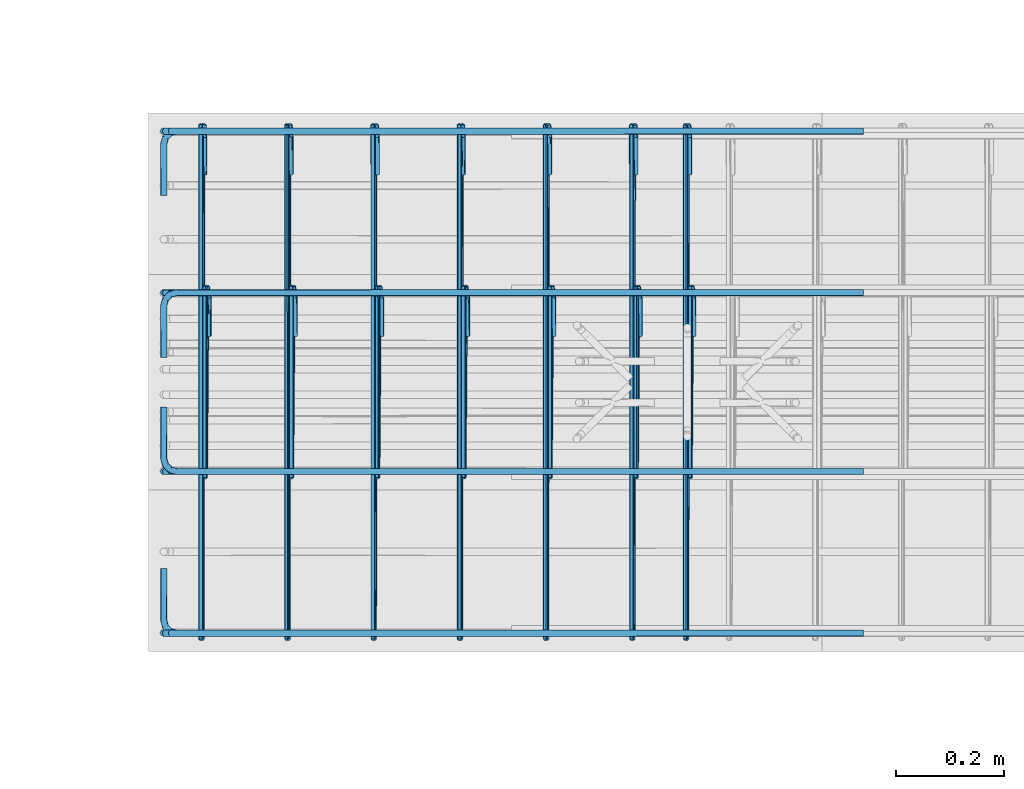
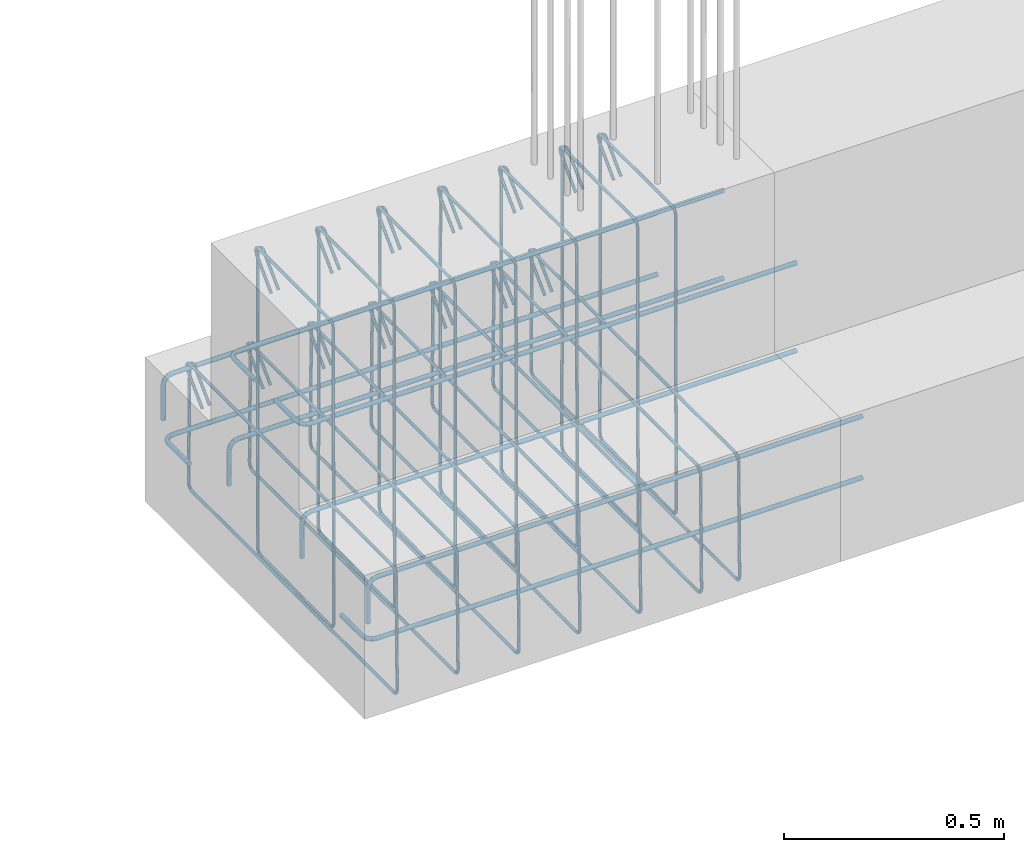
# One storey, part 19 of 23: 2 reinforcing bars.
"""IFC2X3 building model written with IfcOpenShell, lengths in metres."""

from ifc_helpers import new_model, entity, si_unit, direction, frame, origin, place, context, subcontext, project, spatial, shape, source, transform, mapped, element, save


model = new_model("IFC2X3")

# Units and contexts
model_context = context("Model", 3, precision=0.0, world=origin(), true_north=direction((0.0, 1.0)))
plan_context = context("Plan", 3, precision=0.0, world=origin(), true_north=direction((0.0, 1.0)))
body_context = subcontext(model_context, "Body", "Model", "MODEL_VIEW", scale=1.0)
ifc_project = project(units=[si_unit("LENGTHUNIT", "METRE"), si_unit("AREAUNIT", "SQUARE_METRE"), si_unit("VOLUMEUNIT", "CUBIC_METRE"), si_unit("PLANEANGLEUNIT", "RADIAN"), si_unit("THERMODYNAMICTEMPERATUREUNIT", "DEGREE_CELSIUS"), si_unit("FORCEUNIT", "NEWTON"), si_unit("MASSUNIT", "GRAM", prefix="KILO")], contexts=[model_context, plan_context])

# Site, building, storey
placement = place(None, origin())
site = spatial("IfcSite", under=ifc_project, at=placement, Name="Default Site", CompositionType="ELEMENT")
building = spatial("IfcBuilding", under=site, at=placement, Name="Default Building", CompositionType="ELEMENT")
storey_placement = place(placement, frame((0.0, 0.0, 0.0), z_axis=(1.0, 0.0, 0.0), x_axis=(0.0, 0.0, 1.0)))
storey = spatial("IfcBuildingStorey", under=building, at=storey_placement, Name="Piano 0", CompositionType="ELEMENT", Elevation=0.0)

# Reinforcing bars
shared_shape_1 = source(origin(), body_context, None, "AdvancedSweptSolid", [
    entity("IfcSweptDiskSolid", entity("IfcCompositeCurve", [entity("IfcCompositeCurveSegment", "CONTINUOUS", True, entity("IfcPolyline", [entity("IfcCartesianPoint", [0.0, 0.0, 0.0]), entity("IfcCartesianPoint", [0.0, 0.066023, 0.066023]), entity("IfcCartesianPoint", [0.000111, 0.070711, 0.077338]), entity("IfcCartesianPoint", [0.000209, 0.069135, 0.083217]), entity("IfcCartesianPoint", [0.000281, 0.064831, 0.08752]), entity("IfcCartesianPoint", [0.000307, 0.058952, 0.089095]), entity("IfcCartesianPoint", [0.000362, -0.865289, 0.089095]), entity("IfcCartesianPoint", [0.00038, -0.873289, 0.086952]), entity("IfcCartesianPoint", [0.000429, -0.879146, 0.081096]), entity("IfcCartesianPoint", [0.000496, -0.881289, 0.073096]), entity("IfcCartesianPoint", [0.003151, -0.881289, -0.246905]), entity("IfcCartesianPoint", [0.003219, -0.879146, -0.254905]), entity("IfcCartesianPoint", [0.003275, -0.873289, -0.260761]), entity("IfcCartesianPoint", [0.003302, -0.865289, -0.262905]), entity("IfcCartesianPoint", [0.004345, 0.054711, -0.262905]), entity("IfcCartesianPoint", [0.004372, 0.062711, -0.260761]), entity("IfcCartesianPoint", [0.004427, 0.068567, -0.254905]), entity("IfcCartesianPoint", [0.004496, 0.070711, -0.246905]), entity("IfcCartesianPoint", [0.007151, 0.070711, 0.073104]), entity("IfcCartesianPoint", [0.007343, 0.068572, 0.0811]), entity("IfcCartesianPoint", [0.007734, 0.062729, 0.086953]), entity("IfcCartesianPoint", [0.008221, 0.054746, 0.089095]), entity("IfcCartesianPoint", [0.008365, 0.050612, 0.087381]), entity("IfcCartesianPoint", [0.00842, -0.018385, 0.018385])]))], False), 0.004, 0.0, 0.0),
])
shared_shape_2 = source(origin(), body_context, None, "AdvancedSweptSolid", [
    entity("IfcSweptDiskSolid", entity("IfcCompositeCurve", [entity("IfcCompositeCurveSegment", "CONTINUOUS", True, entity("IfcPolyline", [entity("IfcCartesianPoint", [0.0, 0.0, 0.0]), entity("IfcCartesianPoint", [0.0, 0.066023, 0.066023]), entity("IfcCartesianPoint", [0.000111, 0.070711, 0.077338]), entity("IfcCartesianPoint", [0.000209, 0.069135, 0.083217]), entity("IfcCartesianPoint", [0.000281, 0.064831, 0.08752]), entity("IfcCartesianPoint", [0.000307, 0.058952, 0.089095]), entity("IfcCartesianPoint", [0.000362, -0.865289, 0.089095]), entity("IfcCartesianPoint", [0.00038, -0.873289, 0.086952]), entity("IfcCartesianPoint", [0.000429, -0.879146, 0.081096]), entity("IfcCartesianPoint", [0.000496, -0.881289, 0.073096]), entity("IfcCartesianPoint", [0.003151, -0.881289, -0.246905]), entity("IfcCartesianPoint", [0.003219, -0.879146, -0.254905]), entity("IfcCartesianPoint", [0.003275, -0.873289, -0.260761]), entity("IfcCartesianPoint", [0.003302, -0.865289, -0.262905]), entity("IfcCartesianPoint", [0.004345, 0.054711, -0.262905]), entity("IfcCartesianPoint", [0.004372, 0.062711, -0.260761]), entity("IfcCartesianPoint", [0.004427, 0.068567, -0.254905]), entity("IfcCartesianPoint", [0.004496, 0.070711, -0.246905]), entity("IfcCartesianPoint", [0.007151, 0.070711, 0.073104]), entity("IfcCartesianPoint", [0.007343, 0.068572, 0.0811]), entity("IfcCartesianPoint", [0.007734, 0.062729, 0.086953]), entity("IfcCartesianPoint", [0.008221, 0.054746, 0.089095]), entity("IfcCartesianPoint", [0.008365, 0.050612, 0.087381]), entity("IfcCartesianPoint", [0.00842, -0.018385, 0.018385])]))], False), 0.004, 0.0, 0.0),
])
shared_shape_3 = source(origin(), body_context, None, "AdvancedSweptSolid", [
    entity("IfcSweptDiskSolid", entity("IfcCompositeCurve", [entity("IfcCompositeCurveSegment", "CONTINUOUS", True, entity("IfcPolyline", [entity("IfcCartesianPoint", [0.0, 0.0, 0.0]), entity("IfcCartesianPoint", [0.0, 0.066023, 0.066023]), entity("IfcCartesianPoint", [0.000111, 0.070711, 0.077338]), entity("IfcCartesianPoint", [0.000209, 0.069135, 0.083217]), entity("IfcCartesianPoint", [0.000281, 0.064831, 0.08752]), entity("IfcCartesianPoint", [0.000307, 0.058952, 0.089095]), entity("IfcCartesianPoint", [0.000362, -0.865289, 0.089095]), entity("IfcCartesianPoint", [0.00038, -0.873289, 0.086952]), entity("IfcCartesianPoint", [0.000429, -0.879146, 0.081096]), entity("IfcCartesianPoint", [0.000496, -0.881289, 0.073096]), entity("IfcCartesianPoint", [0.003151, -0.881289, -0.246905]), entity("IfcCartesianPoint", [0.003219, -0.879146, -0.254905]), entity("IfcCartesianPoint", [0.003275, -0.873289, -0.260761]), entity("IfcCartesianPoint", [0.003302, -0.865289, -0.262905]), entity("IfcCartesianPoint", [0.004345, 0.054711, -0.262905]), entity("IfcCartesianPoint", [0.004372, 0.062711, -0.260761]), entity("IfcCartesianPoint", [0.004427, 0.068567, -0.254905]), entity("IfcCartesianPoint", [0.004496, 0.070711, -0.246905]), entity("IfcCartesianPoint", [0.007151, 0.070711, 0.073104]), entity("IfcCartesianPoint", [0.007343, 0.068572, 0.0811]), entity("IfcCartesianPoint", [0.007734, 0.062729, 0.086953]), entity("IfcCartesianPoint", [0.008221, 0.054746, 0.089095]), entity("IfcCartesianPoint", [0.008365, 0.050612, 0.087381]), entity("IfcCartesianPoint", [0.00842, -0.018385, 0.018385])]))], False), 0.004, 0.0, 0.0),
])
shared_shape_4 = source(origin(), body_context, None, "AdvancedSweptSolid", [
    entity("IfcSweptDiskSolid", entity("IfcCompositeCurve", [entity("IfcCompositeCurveSegment", "CONTINUOUS", True, entity("IfcPolyline", [entity("IfcCartesianPoint", [0.0, 0.0, 0.0]), entity("IfcCartesianPoint", [0.0, 0.066023, 0.066023]), entity("IfcCartesianPoint", [0.000111, 0.070711, 0.077338]), entity("IfcCartesianPoint", [0.000209, 0.069135, 0.083217]), entity("IfcCartesianPoint", [0.000281, 0.064831, 0.08752]), entity("IfcCartesianPoint", [0.000307, 0.058952, 0.089095]), entity("IfcCartesianPoint", [0.000362, -0.865289, 0.089095]), entity("IfcCartesianPoint", [0.00038, -0.873289, 0.086952]), entity("IfcCartesianPoint", [0.000429, -0.879146, 0.081096]), entity("IfcCartesianPoint", [0.000496, -0.881289, 0.073096]), entity("IfcCartesianPoint", [0.003151, -0.881289, -0.246905]), entity("IfcCartesianPoint", [0.003219, -0.879146, -0.254905]), entity("IfcCartesianPoint", [0.003275, -0.873289, -0.260761]), entity("IfcCartesianPoint", [0.003302, -0.865289, -0.262905]), entity("IfcCartesianPoint", [0.004345, 0.054711, -0.262905]), entity("IfcCartesianPoint", [0.004372, 0.062711, -0.260761]), entity("IfcCartesianPoint", [0.004427, 0.068567, -0.254905]), entity("IfcCartesianPoint", [0.004496, 0.070711, -0.246905]), entity("IfcCartesianPoint", [0.007151, 0.070711, 0.073104]), entity("IfcCartesianPoint", [0.007343, 0.068572, 0.0811]), entity("IfcCartesianPoint", [0.007734, 0.062729, 0.086953]), entity("IfcCartesianPoint", [0.008221, 0.054746, 0.089095]), entity("IfcCartesianPoint", [0.008365, 0.050612, 0.087381]), entity("IfcCartesianPoint", [0.00842, -0.018385, 0.018385])]))], False), 0.004, 0.0, 0.0),
])
shared_shape_5 = source(origin(), body_context, None, "AdvancedSweptSolid", [
    entity("IfcSweptDiskSolid", entity("IfcCompositeCurve", [entity("IfcCompositeCurveSegment", "CONTINUOUS", True, entity("IfcPolyline", [entity("IfcCartesianPoint", [0.0, 0.0, 0.0]), entity("IfcCartesianPoint", [0.0, 0.066023, 0.066023]), entity("IfcCartesianPoint", [0.000111, 0.070711, 0.077338]), entity("IfcCartesianPoint", [0.000209, 0.069135, 0.083217]), entity("IfcCartesianPoint", [0.000281, 0.064831, 0.08752]), entity("IfcCartesianPoint", [0.000307, 0.058952, 0.089095]), entity("IfcCartesianPoint", [0.000362, -0.865289, 0.089095]), entity("IfcCartesianPoint", [0.00038, -0.873289, 0.086952]), entity("IfcCartesianPoint", [0.000429, -0.879146, 0.081096]), entity("IfcCartesianPoint", [0.000496, -0.881289, 0.073096]), entity("IfcCartesianPoint", [0.003151, -0.881289, -0.246905]), entity("IfcCartesianPoint", [0.003219, -0.879146, -0.254905]), entity("IfcCartesianPoint", [0.003275, -0.873289, -0.260761]), entity("IfcCartesianPoint", [0.003302, -0.865289, -0.262905]), entity("IfcCartesianPoint", [0.004345, 0.054711, -0.262905]), entity("IfcCartesianPoint", [0.004372, 0.062711, -0.260761]), entity("IfcCartesianPoint", [0.004427, 0.068567, -0.254905]), entity("IfcCartesianPoint", [0.004496, 0.070711, -0.246905]), entity("IfcCartesianPoint", [0.007151, 0.070711, 0.073104]), entity("IfcCartesianPoint", [0.007343, 0.068572, 0.0811]), entity("IfcCartesianPoint", [0.007734, 0.062729, 0.086953]), entity("IfcCartesianPoint", [0.008221, 0.054746, 0.089095]), entity("IfcCartesianPoint", [0.008365, 0.050612, 0.087381]), entity("IfcCartesianPoint", [0.00842, -0.018385, 0.018385])]))], False), 0.004, 0.0, 0.0),
])
shared_shape_6 = source(origin(), body_context, None, "AdvancedSweptSolid", [
    entity("IfcSweptDiskSolid", entity("IfcCompositeCurve", [entity("IfcCompositeCurveSegment", "CONTINUOUS", True, entity("IfcPolyline", [entity("IfcCartesianPoint", [0.0, 0.0, 0.0]), entity("IfcCartesianPoint", [0.0, 0.066023, 0.066023]), entity("IfcCartesianPoint", [0.000111, 0.070711, 0.077338]), entity("IfcCartesianPoint", [0.000209, 0.069135, 0.083217]), entity("IfcCartesianPoint", [0.000281, 0.064831, 0.08752]), entity("IfcCartesianPoint", [0.000307, 0.058952, 0.089095]), entity("IfcCartesianPoint", [0.000362, -0.865289, 0.089095]), entity("IfcCartesianPoint", [0.00038, -0.873289, 0.086952]), entity("IfcCartesianPoint", [0.000429, -0.879146, 0.081096]), entity("IfcCartesianPoint", [0.000496, -0.881289, 0.073096]), entity("IfcCartesianPoint", [0.003151, -0.881289, -0.246905]), entity("IfcCartesianPoint", [0.003219, -0.879146, -0.254905]), entity("IfcCartesianPoint", [0.003275, -0.873289, -0.260761]), entity("IfcCartesianPoint", [0.003302, -0.865289, -0.262905]), entity("IfcCartesianPoint", [0.004345, 0.054711, -0.262905]), entity("IfcCartesianPoint", [0.004372, 0.062711, -0.260761]), entity("IfcCartesianPoint", [0.004427, 0.068567, -0.254905]), entity("IfcCartesianPoint", [0.004496, 0.070711, -0.246905]), entity("IfcCartesianPoint", [0.007151, 0.070711, 0.073104]), entity("IfcCartesianPoint", [0.007343, 0.068572, 0.0811]), entity("IfcCartesianPoint", [0.007734, 0.062729, 0.086953]), entity("IfcCartesianPoint", [0.008221, 0.054746, 0.089095]), entity("IfcCartesianPoint", [0.008365, 0.050612, 0.087381]), entity("IfcCartesianPoint", [0.00842, -0.018385, 0.018385])]))], False), 0.004, 0.0, 0.0),
])
shared_shape_7 = source(origin(), body_context, None, "AdvancedSweptSolid", [
    entity("IfcSweptDiskSolid", entity("IfcCompositeCurve", [entity("IfcCompositeCurveSegment", "CONTINUOUS", True, entity("IfcPolyline", [entity("IfcCartesianPoint", [0.0, 0.0, 0.0]), entity("IfcCartesianPoint", [0.0, 0.066023, 0.066023]), entity("IfcCartesianPoint", [0.000111, 0.070711, 0.077338]), entity("IfcCartesianPoint", [0.000209, 0.069135, 0.083217]), entity("IfcCartesianPoint", [0.000281, 0.064831, 0.08752]), entity("IfcCartesianPoint", [0.000307, 0.058952, 0.089095]), entity("IfcCartesianPoint", [0.000362, -0.865289, 0.089095]), entity("IfcCartesianPoint", [0.00038, -0.873289, 0.086952]), entity("IfcCartesianPoint", [0.000429, -0.879146, 0.081096]), entity("IfcCartesianPoint", [0.000496, -0.881289, 0.073096]), entity("IfcCartesianPoint", [0.003151, -0.881289, -0.246905]), entity("IfcCartesianPoint", [0.003219, -0.879146, -0.254905]), entity("IfcCartesianPoint", [0.003275, -0.873289, -0.260761]), entity("IfcCartesianPoint", [0.003302, -0.865289, -0.262905]), entity("IfcCartesianPoint", [0.004345, 0.054711, -0.262905]), entity("IfcCartesianPoint", [0.004372, 0.062711, -0.260761]), entity("IfcCartesianPoint", [0.004427, 0.068567, -0.254905]), entity("IfcCartesianPoint", [0.004496, 0.070711, -0.246905]), entity("IfcCartesianPoint", [0.007151, 0.070711, 0.073104]), entity("IfcCartesianPoint", [0.007343, 0.068572, 0.0811]), entity("IfcCartesianPoint", [0.007734, 0.062729, 0.086953]), entity("IfcCartesianPoint", [0.008221, 0.054746, 0.089095]), entity("IfcCartesianPoint", [0.008365, 0.050612, 0.087381]), entity("IfcCartesianPoint", [0.00842, -0.018385, 0.018385])]))], False), 0.004, 0.0, 0.0),
])
shared_shape_8 = source(origin(), body_context, None, "MappedRepresentation", [
    mapped(shared_shape_1, transform((11.096, 0.405289, -0.620095))),
    mapped(shared_shape_2, transform((11.256, 0.405289, -0.620095))),
    mapped(shared_shape_3, transform((11.416, 0.405289, -0.620095))),
    mapped(shared_shape_4, transform((11.576, 0.405289, -0.620095))),
    mapped(shared_shape_5, transform((11.736, 0.405289, -0.620095))),
    mapped(shared_shape_6, transform((11.896, 0.405289, -0.620095))),
    mapped(shared_shape_7, transform((11.996, 0.405289, -0.620095))),
])
shared_shape_9 = source(origin(), body_context, None, "AdvancedSweptSolid", [
    entity("IfcSweptDiskSolid", entity("IfcCompositeCurve", [entity("IfcCompositeCurveSegment", "CONTINUOUS", True, entity("IfcPolyline", [entity("IfcCartesianPoint", [0.0, 0.0, 0.0]), entity("IfcCartesianPoint", [0.0, 0.066023, 0.066023]), entity("IfcCartesianPoint", [0.00012, 0.070711, 0.077339]), entity("IfcCartesianPoint", [0.000226, 0.069135, 0.083217]), entity("IfcCartesianPoint", [0.000305, 0.064831, 0.08752]), entity("IfcCartesianPoint", [0.000334, 0.058952, 0.089095]), entity("IfcCartesianPoint", [0.000391, -0.265289, 0.089095]), entity("IfcCartesianPoint", [0.000395, -0.273289, 0.086952]), entity("IfcCartesianPoint", [0.000404, -0.279146, 0.081095]), entity("IfcCartesianPoint", [0.000415, -0.281289, 0.073095]), entity("IfcCartesianPoint", [0.001541, -0.281289, -0.746905]), entity("IfcCartesianPoint", [0.001569, -0.279146, -0.754905]), entity("IfcCartesianPoint", [0.001624, -0.27329, -0.760761]), entity("IfcCartesianPoint", [0.001691, -0.26529, -0.762905]), entity("IfcCartesianPoint", [0.004265, 0.054711, -0.762905]), entity("IfcCartesianPoint", [0.004332, 0.062711, -0.760761]), entity("IfcCartesianPoint", [0.004387, 0.068567, -0.754905]), entity("IfcCartesianPoint", [0.004415, 0.070711, -0.746905]), entity("IfcCartesianPoint", [0.005541, 0.070711, 0.073099]), entity("IfcCartesianPoint", [0.005878, 0.068593, 0.081097]), entity("IfcCartesianPoint", [0.006777, 0.062806, 0.086952]), entity("IfcCartesianPoint", [0.007997, 0.0549, 0.089095]), entity("IfcCartesianPoint", [0.008291, 0.052517, 0.088616]), entity("IfcCartesianPoint", [0.008395, 0.050484, 0.087254]), entity("IfcCartesianPoint", [0.008454, -0.018385, 0.018385])]))], False), 0.004, 0.0, 0.0),
])
shared_shape_10 = source(origin(), body_context, None, "AdvancedSweptSolid", [
    entity("IfcSweptDiskSolid", entity("IfcCompositeCurve", [entity("IfcCompositeCurveSegment", "CONTINUOUS", True, entity("IfcPolyline", [entity("IfcCartesianPoint", [0.0, 0.0, 0.0]), entity("IfcCartesianPoint", [0.0, 0.066023, 0.066023]), entity("IfcCartesianPoint", [0.00012, 0.070711, 0.077339]), entity("IfcCartesianPoint", [0.000226, 0.069135, 0.083217]), entity("IfcCartesianPoint", [0.000305, 0.064831, 0.08752]), entity("IfcCartesianPoint", [0.000334, 0.058952, 0.089095]), entity("IfcCartesianPoint", [0.000391, -0.265289, 0.089095]), entity("IfcCartesianPoint", [0.000395, -0.273289, 0.086952]), entity("IfcCartesianPoint", [0.000404, -0.279146, 0.081095]), entity("IfcCartesianPoint", [0.000415, -0.281289, 0.073095]), entity("IfcCartesianPoint", [0.001541, -0.281289, -0.746905]), entity("IfcCartesianPoint", [0.001569, -0.279146, -0.754905]), entity("IfcCartesianPoint", [0.001624, -0.27329, -0.760761]), entity("IfcCartesianPoint", [0.001691, -0.26529, -0.762905]), entity("IfcCartesianPoint", [0.004265, 0.054711, -0.762905]), entity("IfcCartesianPoint", [0.004332, 0.062711, -0.760761]), entity("IfcCartesianPoint", [0.004387, 0.068567, -0.754905]), entity("IfcCartesianPoint", [0.004415, 0.070711, -0.746905]), entity("IfcCartesianPoint", [0.005541, 0.070711, 0.073099]), entity("IfcCartesianPoint", [0.005878, 0.068593, 0.081097]), entity("IfcCartesianPoint", [0.006777, 0.062806, 0.086952]), entity("IfcCartesianPoint", [0.007997, 0.0549, 0.089095]), entity("IfcCartesianPoint", [0.008291, 0.052517, 0.088616]), entity("IfcCartesianPoint", [0.008395, 0.050484, 0.087254]), entity("IfcCartesianPoint", [0.008454, -0.018385, 0.018385])]))], False), 0.004, 0.0, 0.0),
])
shared_shape_11 = source(origin(), body_context, None, "AdvancedSweptSolid", [
    entity("IfcSweptDiskSolid", entity("IfcCompositeCurve", [entity("IfcCompositeCurveSegment", "CONTINUOUS", True, entity("IfcPolyline", [entity("IfcCartesianPoint", [0.0, 0.0, 0.0]), entity("IfcCartesianPoint", [0.0, 0.066023, 0.066023]), entity("IfcCartesianPoint", [0.00012, 0.070711, 0.077339]), entity("IfcCartesianPoint", [0.000226, 0.069135, 0.083217]), entity("IfcCartesianPoint", [0.000305, 0.064831, 0.08752]), entity("IfcCartesianPoint", [0.000334, 0.058952, 0.089095]), entity("IfcCartesianPoint", [0.000391, -0.265289, 0.089095]), entity("IfcCartesianPoint", [0.000395, -0.273289, 0.086952]), entity("IfcCartesianPoint", [0.000404, -0.279146, 0.081095]), entity("IfcCartesianPoint", [0.000415, -0.281289, 0.073095]), entity("IfcCartesianPoint", [0.001541, -0.281289, -0.746905]), entity("IfcCartesianPoint", [0.001569, -0.279146, -0.754905]), entity("IfcCartesianPoint", [0.001624, -0.27329, -0.760761]), entity("IfcCartesianPoint", [0.001691, -0.26529, -0.762905]), entity("IfcCartesianPoint", [0.004265, 0.054711, -0.762905]), entity("IfcCartesianPoint", [0.004332, 0.062711, -0.760761]), entity("IfcCartesianPoint", [0.004387, 0.068567, -0.754905]), entity("IfcCartesianPoint", [0.004415, 0.070711, -0.746905]), entity("IfcCartesianPoint", [0.005541, 0.070711, 0.073099]), entity("IfcCartesianPoint", [0.005878, 0.068593, 0.081097]), entity("IfcCartesianPoint", [0.006777, 0.062806, 0.086952]), entity("IfcCartesianPoint", [0.007997, 0.0549, 0.089095]), entity("IfcCartesianPoint", [0.008291, 0.052517, 0.088616]), entity("IfcCartesianPoint", [0.008395, 0.050484, 0.087254]), entity("IfcCartesianPoint", [0.008454, -0.018385, 0.018385])]))], False), 0.004, 0.0, 0.0),
])
shared_shape_12 = source(origin(), body_context, None, "AdvancedSweptSolid", [
    entity("IfcSweptDiskSolid", entity("IfcCompositeCurve", [entity("IfcCompositeCurveSegment", "CONTINUOUS", True, entity("IfcPolyline", [entity("IfcCartesianPoint", [0.0, 0.0, 0.0]), entity("IfcCartesianPoint", [0.0, 0.066023, 0.066023]), entity("IfcCartesianPoint", [0.00012, 0.070711, 0.077339]), entity("IfcCartesianPoint", [0.000226, 0.069135, 0.083217]), entity("IfcCartesianPoint", [0.000305, 0.064831, 0.08752]), entity("IfcCartesianPoint", [0.000334, 0.058952, 0.089095]), entity("IfcCartesianPoint", [0.000391, -0.265289, 0.089095]), entity("IfcCartesianPoint", [0.000395, -0.273289, 0.086952]), entity("IfcCartesianPoint", [0.000404, -0.279146, 0.081095]), entity("IfcCartesianPoint", [0.000415, -0.281289, 0.073095]), entity("IfcCartesianPoint", [0.001541, -0.281289, -0.746905]), entity("IfcCartesianPoint", [0.001569, -0.279146, -0.754905]), entity("IfcCartesianPoint", [0.001624, -0.27329, -0.760761]), entity("IfcCartesianPoint", [0.001691, -0.26529, -0.762905]), entity("IfcCartesianPoint", [0.004265, 0.054711, -0.762905]), entity("IfcCartesianPoint", [0.004332, 0.062711, -0.760761]), entity("IfcCartesianPoint", [0.004387, 0.068567, -0.754905]), entity("IfcCartesianPoint", [0.004415, 0.070711, -0.746905]), entity("IfcCartesianPoint", [0.005541, 0.070711, 0.073099]), entity("IfcCartesianPoint", [0.005878, 0.068593, 0.081097]), entity("IfcCartesianPoint", [0.006777, 0.062806, 0.086952]), entity("IfcCartesianPoint", [0.007997, 0.0549, 0.089095]), entity("IfcCartesianPoint", [0.008291, 0.052517, 0.088616]), entity("IfcCartesianPoint", [0.008395, 0.050484, 0.087254]), entity("IfcCartesianPoint", [0.008454, -0.018385, 0.018385])]))], False), 0.004, 0.0, 0.0),
])
shared_shape_13 = source(origin(), body_context, None, "AdvancedSweptSolid", [
    entity("IfcSweptDiskSolid", entity("IfcCompositeCurve", [entity("IfcCompositeCurveSegment", "CONTINUOUS", True, entity("IfcPolyline", [entity("IfcCartesianPoint", [0.0, 0.0, 0.0]), entity("IfcCartesianPoint", [0.0, 0.066023, 0.066023]), entity("IfcCartesianPoint", [0.00012, 0.070711, 0.077339]), entity("IfcCartesianPoint", [0.000226, 0.069135, 0.083217]), entity("IfcCartesianPoint", [0.000305, 0.064831, 0.08752]), entity("IfcCartesianPoint", [0.000334, 0.058952, 0.089095]), entity("IfcCartesianPoint", [0.000391, -0.265289, 0.089095]), entity("IfcCartesianPoint", [0.000395, -0.273289, 0.086952]), entity("IfcCartesianPoint", [0.000404, -0.279146, 0.081095]), entity("IfcCartesianPoint", [0.000415, -0.281289, 0.073095]), entity("IfcCartesianPoint", [0.001541, -0.281289, -0.746905]), entity("IfcCartesianPoint", [0.001569, -0.279146, -0.754905]), entity("IfcCartesianPoint", [0.001624, -0.27329, -0.760761]), entity("IfcCartesianPoint", [0.001691, -0.26529, -0.762905]), entity("IfcCartesianPoint", [0.004265, 0.054711, -0.762905]), entity("IfcCartesianPoint", [0.004332, 0.062711, -0.760761]), entity("IfcCartesianPoint", [0.004387, 0.068567, -0.754905]), entity("IfcCartesianPoint", [0.004415, 0.070711, -0.746905]), entity("IfcCartesianPoint", [0.005541, 0.070711, 0.073099]), entity("IfcCartesianPoint", [0.005878, 0.068593, 0.081097]), entity("IfcCartesianPoint", [0.006777, 0.062806, 0.086952]), entity("IfcCartesianPoint", [0.007997, 0.0549, 0.089095]), entity("IfcCartesianPoint", [0.008291, 0.052517, 0.088616]), entity("IfcCartesianPoint", [0.008395, 0.050484, 0.087254]), entity("IfcCartesianPoint", [0.008454, -0.018385, 0.018385])]))], False), 0.004, 0.0, 0.0),
])
shared_shape_14 = source(origin(), body_context, None, "AdvancedSweptSolid", [
    entity("IfcSweptDiskSolid", entity("IfcCompositeCurve", [entity("IfcCompositeCurveSegment", "CONTINUOUS", True, entity("IfcPolyline", [entity("IfcCartesianPoint", [0.0, 0.0, 0.0]), entity("IfcCartesianPoint", [0.0, 0.066023, 0.066023]), entity("IfcCartesianPoint", [0.00012, 0.070711, 0.077339]), entity("IfcCartesianPoint", [0.000226, 0.069135, 0.083217]), entity("IfcCartesianPoint", [0.000305, 0.064831, 0.08752]), entity("IfcCartesianPoint", [0.000334, 0.058952, 0.089095]), entity("IfcCartesianPoint", [0.000391, -0.265289, 0.089095]), entity("IfcCartesianPoint", [0.000395, -0.273289, 0.086952]), entity("IfcCartesianPoint", [0.000404, -0.279146, 0.081095]), entity("IfcCartesianPoint", [0.000415, -0.281289, 0.073095]), entity("IfcCartesianPoint", [0.001541, -0.281289, -0.746905]), entity("IfcCartesianPoint", [0.001569, -0.279146, -0.754905]), entity("IfcCartesianPoint", [0.001624, -0.27329, -0.760761]), entity("IfcCartesianPoint", [0.001691, -0.26529, -0.762905]), entity("IfcCartesianPoint", [0.004265, 0.054711, -0.762905]), entity("IfcCartesianPoint", [0.004332, 0.062711, -0.760761]), entity("IfcCartesianPoint", [0.004387, 0.068567, -0.754905]), entity("IfcCartesianPoint", [0.004415, 0.070711, -0.746905]), entity("IfcCartesianPoint", [0.005541, 0.070711, 0.073099]), entity("IfcCartesianPoint", [0.005878, 0.068593, 0.081097]), entity("IfcCartesianPoint", [0.006777, 0.062806, 0.086952]), entity("IfcCartesianPoint", [0.007997, 0.0549, 0.089095]), entity("IfcCartesianPoint", [0.008291, 0.052517, 0.088616]), entity("IfcCartesianPoint", [0.008395, 0.050484, 0.087254]), entity("IfcCartesianPoint", [0.008454, -0.018385, 0.018385])]))], False), 0.004, 0.0, 0.0),
])
shared_shape_15 = source(origin(), body_context, None, "AdvancedSweptSolid", [
    entity("IfcSweptDiskSolid", entity("IfcCompositeCurve", [entity("IfcCompositeCurveSegment", "CONTINUOUS", True, entity("IfcPolyline", [entity("IfcCartesianPoint", [0.0, 0.0, 0.0]), entity("IfcCartesianPoint", [0.0, 0.066023, 0.066023]), entity("IfcCartesianPoint", [0.00012, 0.070711, 0.077339]), entity("IfcCartesianPoint", [0.000226, 0.069135, 0.083217]), entity("IfcCartesianPoint", [0.000305, 0.064831, 0.08752]), entity("IfcCartesianPoint", [0.000334, 0.058952, 0.089095]), entity("IfcCartesianPoint", [0.000391, -0.265289, 0.089095]), entity("IfcCartesianPoint", [0.000395, -0.273289, 0.086952]), entity("IfcCartesianPoint", [0.000404, -0.279146, 0.081095]), entity("IfcCartesianPoint", [0.000415, -0.281289, 0.073095]), entity("IfcCartesianPoint", [0.001541, -0.281289, -0.746905]), entity("IfcCartesianPoint", [0.001569, -0.279146, -0.754905]), entity("IfcCartesianPoint", [0.001624, -0.27329, -0.760761]), entity("IfcCartesianPoint", [0.001691, -0.26529, -0.762905]), entity("IfcCartesianPoint", [0.004265, 0.054711, -0.762905]), entity("IfcCartesianPoint", [0.004332, 0.062711, -0.760761]), entity("IfcCartesianPoint", [0.004387, 0.068567, -0.754905]), entity("IfcCartesianPoint", [0.004415, 0.070711, -0.746905]), entity("IfcCartesianPoint", [0.005541, 0.070711, 0.073099]), entity("IfcCartesianPoint", [0.005878, 0.068593, 0.081097]), entity("IfcCartesianPoint", [0.006777, 0.062806, 0.086952]), entity("IfcCartesianPoint", [0.007997, 0.0549, 0.089095]), entity("IfcCartesianPoint", [0.008291, 0.052517, 0.088616]), entity("IfcCartesianPoint", [0.008395, 0.050484, 0.087254]), entity("IfcCartesianPoint", [0.008454, -0.018385, 0.018385])]))], False), 0.004, 0.0, 0.0),
])
shared_shape_16 = source(origin(), body_context, None, "MappedRepresentation", [
    mapped(shared_shape_9, transform((11.104, 0.105289, -0.120095))),
    mapped(shared_shape_10, transform((11.264, 0.105289, -0.120095))),
    mapped(shared_shape_11, transform((11.424, 0.105289, -0.120095))),
    mapped(shared_shape_12, transform((11.584, 0.105289, -0.120095))),
    mapped(shared_shape_13, transform((11.744, 0.105289, -0.120095))),
    mapped(shared_shape_14, transform((11.904, 0.105289, -0.120095))),
    mapped(shared_shape_15, transform((12.004, 0.105289, -0.120095))),
])
element("IfcReinforcingBar", 1, at=placement, inside=storey, Name="Arm Staffa; Trave:2 [Piano:0]", BarLength=37.935806, BarRole="SHEAR", BarSurface="TEXTURED", NominalDiameter=0.008, shapes=[
    shape(body_context, None, "MappedRepresentation", [mapped(shared_shape_8, transform((0.0, 0.0, 0.0))), mapped(shared_shape_16, transform((0.0, 0.0, 0.0)))]),
])
shared_shape_17 = source(origin(), body_context, None, "AdvancedSweptSolid", [
    entity("IfcSweptDiskSolid", entity("IfcCompositeCurve", [entity("IfcCompositeCurveSegment", "CONTINUOUS", True, entity("IfcPolyline", [entity("IfcCartesianPoint", [0.0, 0.0, 0.0]), entity("IfcCartesianPoint", [0.0, 0.096, 0.0]), entity("IfcCartesianPoint", [0.003215, 0.108, 0.0]), entity("IfcCartesianPoint", [0.012, 0.116785, 0.0]), entity("IfcCartesianPoint", [0.024, 0.12, 0.0]), entity("IfcCartesianPoint", [0.972, 0.12, 0.0]), entity("IfcCartesianPoint", [1.298909, 0.12, 0.0])]))], False), 0.006, 0.0, 0.0),
])
shared_shape_18 = source(origin(), body_context, None, "MappedRepresentation", [mapped(shared_shape_17, transform((11.028, 0.046, -0.298)))])
shared_shape_19 = source(origin(), body_context, None, "AdvancedSweptSolid", [
    entity("IfcSweptDiskSolid", entity("IfcCompositeCurve", [entity("IfcCompositeCurveSegment", "CONTINUOUS", True, entity("IfcPolyline", [entity("IfcCartesianPoint", [0.0, 0.0, 0.0]), entity("IfcCartesianPoint", [0.0, -0.096, 0.0]), entity("IfcCartesianPoint", [0.003215, -0.108, 0.0]), entity("IfcCartesianPoint", [0.012, -0.116785, 0.0]), entity("IfcCartesianPoint", [0.024, -0.12, 0.0]), entity("IfcCartesianPoint", [0.972, -0.12, 0.0]), entity("IfcCartesianPoint", [1.298909, -0.12, 0.0])]))], False), 0.006, 0.0, 0.0),
])
shared_shape_20 = source(origin(), body_context, None, "MappedRepresentation", [mapped(shared_shape_19, transform((11.028, -0.046, -0.298)))])
shared_shape_21 = source(origin(), body_context, None, "AdvancedSweptSolid", [
    entity("IfcSweptDiskSolid", entity("IfcCompositeCurve", [entity("IfcCompositeCurveSegment", "CONTINUOUS", True, entity("IfcPolyline", [entity("IfcCartesianPoint", [0.0, 0.0, 0.0]), entity("IfcCartesianPoint", [0.0, 0.096, 0.0]), entity("IfcCartesianPoint", [0.003215, 0.108, 0.0]), entity("IfcCartesianPoint", [0.012, 0.116785, 0.0]), entity("IfcCartesianPoint", [0.024, 0.12, 0.0]), entity("IfcCartesianPoint", [0.972, 0.12, 0.0]), entity("IfcCartesianPoint", [1.298909, 0.12, 0.0])]))], False), 0.006, 0.0, 0.0),
])
shared_shape_22 = source(origin(), body_context, None, "MappedRepresentation", [mapped(shared_shape_21, transform((11.028, 0.346, -0.713)))])
shared_shape_23 = source(origin(), body_context, None, "AdvancedSweptSolid", [
    entity("IfcSweptDiskSolid", entity("IfcCompositeCurve", [entity("IfcCompositeCurveSegment", "CONTINUOUS", True, entity("IfcPolyline", [entity("IfcCartesianPoint", [0.0, 0.0, 0.0]), entity("IfcCartesianPoint", [0.0, -0.096, 0.0]), entity("IfcCartesianPoint", [0.003215, -0.108, 0.0]), entity("IfcCartesianPoint", [0.012, -0.116785, 0.0]), entity("IfcCartesianPoint", [0.024, -0.12, 0.0]), entity("IfcCartesianPoint", [0.972, -0.12, 0.0]), entity("IfcCartesianPoint", [1.298909, -0.12, 0.0])]))], False), 0.006, 0.0, 0.0),
])
shared_shape_24 = source(origin(), body_context, None, "MappedRepresentation", [mapped(shared_shape_23, transform((11.028, -0.346, -0.713)))])
shared_shape_25 = source(origin(), body_context, None, "AdvancedSweptSolid", [
    entity("IfcSweptDiskSolid", entity("IfcCompositeCurve", [entity("IfcCompositeCurveSegment", "CONTINUOUS", True, entity("IfcPolyline", [entity("IfcCartesianPoint", [0.0, 0.0, 0.0]), entity("IfcCartesianPoint", [0.0, 0.0, 0.096]), entity("IfcCartesianPoint", [0.003215, 0.0, 0.108]), entity("IfcCartesianPoint", [0.012, 0.0, 0.116785]), entity("IfcCartesianPoint", [0.024, 0.0, 0.12]), entity("IfcCartesianPoint", [0.972, 0.0, 0.12]), entity("IfcCartesianPoint", [1.298909, 0.0, 0.12])]))], False), 0.006, 0.0, 0.0),
])
shared_shape_26 = source(origin(), body_context, None, "MappedRepresentation", [mapped(shared_shape_25, transform((11.028, 0.166, -0.662)))])
shared_shape_27 = source(origin(), body_context, None, "AdvancedSweptSolid", [
    entity("IfcSweptDiskSolid", entity("IfcCompositeCurve", [entity("IfcCompositeCurveSegment", "CONTINUOUS", True, entity("IfcPolyline", [entity("IfcCartesianPoint", [0.0, 0.0, 0.0]), entity("IfcCartesianPoint", [0.0, 0.0, 0.096]), entity("IfcCartesianPoint", [0.003215, 0.0, 0.108]), entity("IfcCartesianPoint", [0.012, 0.0, 0.116785]), entity("IfcCartesianPoint", [0.024, 0.0, 0.12]), entity("IfcCartesianPoint", [0.972, 0.0, 0.12]), entity("IfcCartesianPoint", [1.298909, 0.0, 0.12])]))], False), 0.006, 0.0, 0.0),
])
shared_shape_28 = source(origin(), body_context, None, "MappedRepresentation", [mapped(shared_shape_27, transform((11.028, 0.466, -0.662)))])
shared_shape_29 = source(origin(), body_context, None, "AdvancedSweptSolid", [
    entity("IfcSweptDiskSolid", entity("IfcCompositeCurve", [entity("IfcCompositeCurveSegment", "CONTINUOUS", True, entity("IfcPolyline", [entity("IfcCartesianPoint", [0.0, 0.0, 0.0]), entity("IfcCartesianPoint", [0.0, 0.0, 0.096]), entity("IfcCartesianPoint", [0.003215, 0.0, 0.108]), entity("IfcCartesianPoint", [0.012, 0.0, 0.116785]), entity("IfcCartesianPoint", [0.024, 0.0, 0.12]), entity("IfcCartesianPoint", [0.972, 0.0, 0.12]), entity("IfcCartesianPoint", [1.298909, 0.0, 0.12])]))], False), 0.006, 0.0, 0.0),
])
shared_shape_30 = source(origin(), body_context, None, "MappedRepresentation", [mapped(shared_shape_29, transform((11.028, -0.466, -0.662)))])
shared_shape_31 = source(origin(), body_context, None, "AdvancedSweptSolid", [
    entity("IfcSweptDiskSolid", entity("IfcCompositeCurve", [entity("IfcCompositeCurveSegment", "CONTINUOUS", True, entity("IfcPolyline", [entity("IfcCartesianPoint", [0.0, 0.0, 0.0]), entity("IfcCartesianPoint", [0.0, 0.0, 0.096]), entity("IfcCartesianPoint", [0.003215, 0.0, 0.108]), entity("IfcCartesianPoint", [0.012, 0.0, 0.116785]), entity("IfcCartesianPoint", [0.024, 0.0, 0.12]), entity("IfcCartesianPoint", [0.972, 0.0, 0.12]), entity("IfcCartesianPoint", [1.298909, 0.0, 0.12])]))], False), 0.006, 0.0, 0.0),
])
shared_shape_32 = source(origin(), body_context, None, "MappedRepresentation", [mapped(shared_shape_31, transform((11.028, -0.166, -0.662)))])
element("IfcReinforcingBar", 2, at=placement, inside=storey, Name="Arm Generica; Trave:2 [Piano:0]", BarLength=11.31908, BarRole="NOTDEFINED", BarSurface="TEXTURED", NominalDiameter=0.012, shapes=[
    shape(body_context, None, "MappedRepresentation", [mapped(shared_shape_18, transform((0.0, 0.0, 0.0))), mapped(shared_shape_20, transform((0.0, 0.0, 0.0))), mapped(shared_shape_22, transform((0.0, 0.0, 0.0))), mapped(shared_shape_24, transform((0.0, 0.0, 0.0))), mapped(shared_shape_26, transform((0.0, 0.0, 0.0))), mapped(shared_shape_28, transform((0.0, 0.0, 0.0))), mapped(shared_shape_30, transform((0.0, 0.0, 0.0))), mapped(shared_shape_32, transform((0.0, 0.0, 0.0)))]),
])

save(model, "model.ifc")
